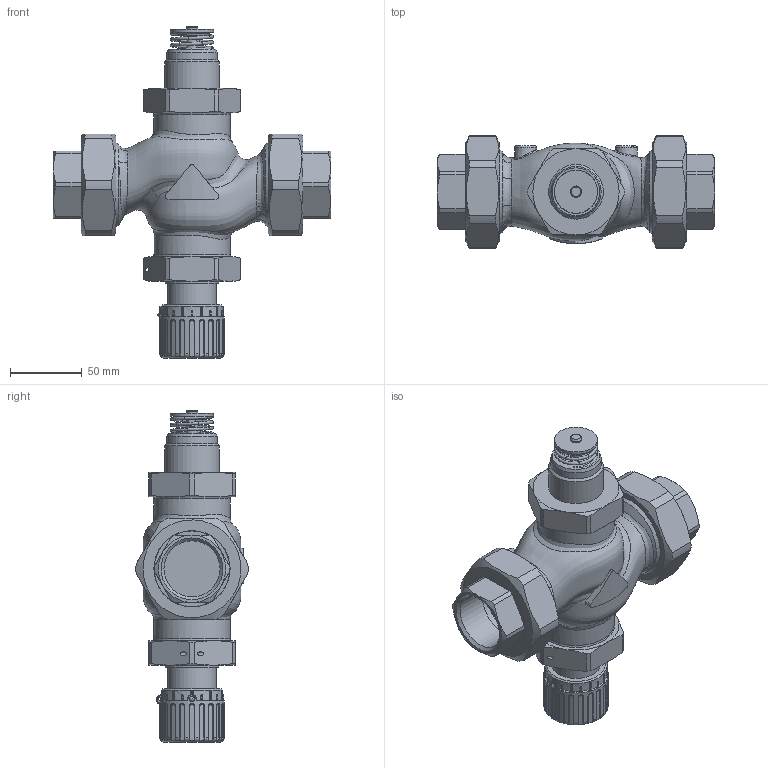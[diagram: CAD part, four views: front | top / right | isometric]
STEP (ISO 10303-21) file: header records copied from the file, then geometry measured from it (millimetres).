
FILE_DESCRIPTION(/* description */ (''),/* implementation_level */ '2;1');
FILE_NAME(/* name */ 'rv122p_dn32_T.stp',/* time_stamp */ '2012-11-05T15:36:45+01:00',/* author */ ('JENIK'),/* organization */ ('LDM'),/* preprocessor_version */ 'ST-DEVELOPER v11',/* originating_system */ 'SIEMENS PLM Software NX 7.0',/* authorisation */ '');
FILE_SCHEMA (('CONFIG_CONTROL_DESIGN'));
Length unit declared in the file: millimetre
Products named in the file (1): jeniA85B0dq3
Bounding box: 193 x 77.97 x 230.8 mm (x, y, z)
Volume: 134215.6 mm3; surface area: 118308 mm2
Topology: 6 solids, 7 shells, 619 faces, 1540 edges, 953 vertices
Faces by surface type: cylinder 216, plane 181, bspline 99, torus 70, cone 52, sphere 1
Full cylindrical faces by diameter (mm): 2 x1, 2.5 x1, 8 x2, 24.5 x1, 30 x1, 33.8 x1, 35 x1, 37 x1, 38 x1, 38.952 x2, 43 x1, 44 x4, 52.6 x2, 53 x4, 56 x2, 56.3 x2, 56.656 x2, 59.614 x2
Entity records: 30500 total; most frequent: CARTESIAN_POINT 17179, ORIENTED_EDGE 2820, DIRECTION 2560, EDGE_CURVE 1410, AXIS2_PLACEMENT_3D 1070, VERTEX_POINT 908, EDGE_LOOP 740, ADVANCED_FACE 619
